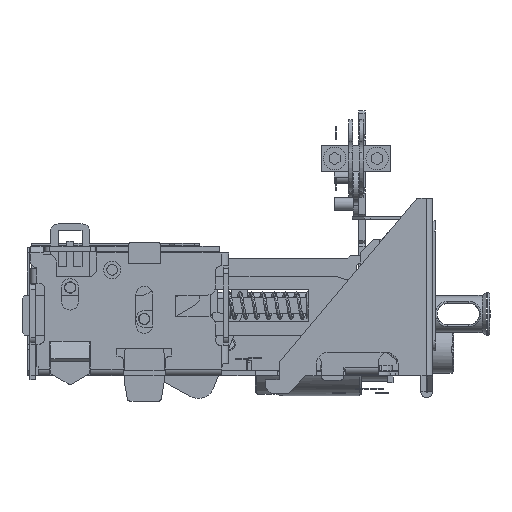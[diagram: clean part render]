
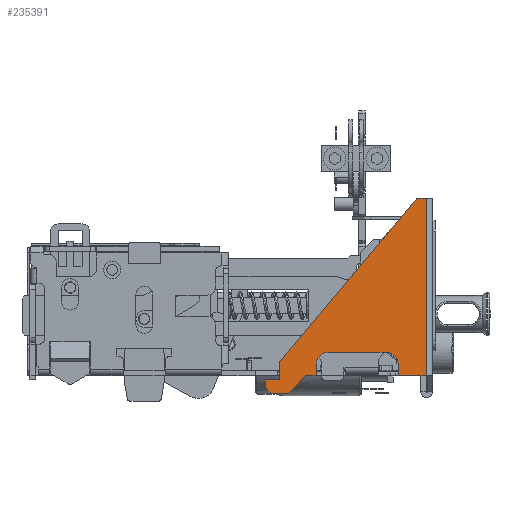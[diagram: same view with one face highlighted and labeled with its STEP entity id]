
A CAD part, left-side view. The second image highlights one B-rep face of the part: STEP entity #235391.
In plain terms, the highlighted planar face has unit normal (-1, 0, 0).
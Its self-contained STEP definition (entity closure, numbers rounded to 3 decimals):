
#233581=CARTESIAN_POINT(' ',(-26.25,33.5,-2.5));
#233582=VERTEX_POINT(' ',#233581);
#233596=CARTESIAN_POINT(' ',(-26.25,33.5,-2.5));
#233601=DIRECTION(' ',(0.,-1.,0.));
#233606=VECTOR(' ',#233601,1.);
#233611=LINE('',#233596,#233606);
#233616=CARTESIAN_POINT(' ',(-26.25,-33.5,-2.5));
#233617=VERTEX_POINT(' ',#233616);
#233621=EDGE_CURVE(' ',#233582,#233617,#233611,.T.);
#234786=CARTESIAN_POINT(' ',(-26.25,33.5,-6.));
#234787=VERTEX_POINT(' ',#234786);
#234801=CARTESIAN_POINT(' ',(-26.25,33.5,-2.5));
#234806=DIRECTION(' ',(0.,0.,-1.));
#234811=VECTOR(' ',#234806,1.);
#234816=LINE('',#234801,#234811);
#234821=EDGE_CURVE(' ',#233582,#234787,#234816,.T.);
#234851=DIRECTION(' ',(-1.,-0.,0.));
#234856=CARTESIAN_POINT(' ',(-26.25,-40.,-2.5));
#234861=DIRECTION(' ',(0.,1.,0.));
#234866=AXIS2_PLACEMENT_3D(' ',#234856,#234851,#234861);
#234871=PLANE('NONE',#234866);
#234876=CARTESIAN_POINT(' ',(-26.25,-33.5,-44.));
#234881=DIRECTION(' ',(0.,1.,0.));
#234886=VECTOR(' ',#234881,1.);
#234891=LINE('',#234876,#234886);
#234896=CARTESIAN_POINT(' ',(-26.25,-33.5,-44.));
#234897=VERTEX_POINT(' ',#234896);
#234901=CARTESIAN_POINT(' ',(-26.25,-29.5,-44.));
#234902=VERTEX_POINT(' ',#234901);
#234906=EDGE_CURVE(' ',#234897,#234902,#234891,.T.);
#234911=ORIENTED_EDGE(' ',*,*,#234906,.T.);
#234916=CARTESIAN_POINT(' ',(-26.25,-29.5,-39.));
#234921=DIRECTION(' ',(1.,0.,0.));
#234926=DIRECTION(' ',(0.,0.,-1.));
#234931=AXIS2_PLACEMENT_3D(' ',#234916,#234921,#234926);
#234936=CIRCLE('',#234931,5.);
#234941=CARTESIAN_POINT(' ',(-26.25,-24.5,-39.));
#234942=VERTEX_POINT(' ',#234941);
#234946=EDGE_CURVE(' ',#234902,#234942,#234936,.T.);
#234951=ORIENTED_EDGE(' ',*,*,#234946,.T.);
#234956=CARTESIAN_POINT(' ',(-26.25,-24.5,-39.));
#234961=DIRECTION(' ',(0.,0.,1.));
#234966=VECTOR(' ',#234961,1.);
#234971=LINE('',#234956,#234966);
#234976=CARTESIAN_POINT(' ',(-26.25,-24.5,-18.));
#234977=VERTEX_POINT(' ',#234976);
#234981=EDGE_CURVE(' ',#234942,#234977,#234971,.T.);
#234986=ORIENTED_EDGE(' ',*,*,#234981,.T.);
#234991=CARTESIAN_POINT(' ',(-26.25,-29.5,-18.));
#234996=DIRECTION(' ',(1.,0.,0.));
#235001=DIRECTION(' ',(0.,1.,0.));
#235006=AXIS2_PLACEMENT_3D(' ',#234991,#234996,#235001);
#235011=CIRCLE('',#235006,5.);
#235016=CARTESIAN_POINT(' ',(-26.25,-29.5,-13.));
#235017=VERTEX_POINT(' ',#235016);
#235021=EDGE_CURVE(' ',#234977,#235017,#235011,.T.);
#235026=ORIENTED_EDGE(' ',*,*,#235021,.T.);
#235031=CARTESIAN_POINT(' ',(-26.25,-29.5,-13.));
#235036=DIRECTION(' ',(0.,-1.,0.));
#235041=VECTOR(' ',#235036,1.);
#235046=LINE('',#235031,#235041);
#235051=CARTESIAN_POINT(' ',(-26.25,-33.5,-13.));
#235052=VERTEX_POINT(' ',#235051);
#235056=EDGE_CURVE(' ',#235017,#235052,#235046,.T.);
#235061=ORIENTED_EDGE(' ',*,*,#235056,.T.);
#235066=CARTESIAN_POINT(' ',(-26.25,-33.5,-13.));
#235071=DIRECTION(' ',(0.,0.,1.));
#235076=VECTOR(' ',#235071,1.);
#235081=LINE('',#235066,#235076);
#235086=EDGE_CURVE(' ',#235052,#233617,#235081,.T.);
#235091=ORIENTED_EDGE(' ',*,*,#235086,.T.);
#235096=ORIENTED_EDGE(' ',*,*,#233621,.F.);
#235101=ORIENTED_EDGE(' ',*,*,#234821,.T.);
#235106=CARTESIAN_POINT(' ',(-26.25,33.5,-6.));
#235111=DIRECTION(' ',(0.,-0.766,-0.643));
#235116=VECTOR(' ',#235111,1.);
#235121=LINE('',#235106,#235116);
#235126=CARTESIAN_POINT(' ',(-26.25,-28.5,-58.));
#235127=VERTEX_POINT(' ',#235126);
#235131=EDGE_CURVE(' ',#234787,#235127,#235121,.T.);
#235136=ORIENTED_EDGE(' ',*,*,#235131,.T.);
#235141=CARTESIAN_POINT(' ',(-26.25,-28.5,-58.));
#235146=DIRECTION(' ',(0.,-1.,0.));
#235151=VECTOR(' ',#235146,1.);
#235156=LINE('',#235141,#235151);
#235161=CARTESIAN_POINT(' ',(-26.25,-35.,-58.));
#235162=VERTEX_POINT(' ',#235161);
#235166=EDGE_CURVE(' ',#235127,#235162,#235156,.T.);
#235171=ORIENTED_EDGE(' ',*,*,#235166,.T.);
#235176=CARTESIAN_POINT(' ',(-26.25,-35.,-63.));
#235181=DIRECTION(' ',(0.,0.,1.));
#235186=VECTOR(' ',#235181,1.);
#235191=LINE('',#235176,#235186);
#235196=CARTESIAN_POINT(' ',(-26.25,-35.,-63.));
#235197=VERTEX_POINT(' ',#235196);
#235201=EDGE_CURVE(' ',#235197,#235162,#235191,.T.);
#235206=ORIENTED_EDGE(' ',*,*,#235201,.F.);
#235211=CARTESIAN_POINT(' ',(-26.25,-38.,-63.));
#235216=DIRECTION(' ',(0.,1.,0.));
#235221=VECTOR(' ',#235216,1.);
#235226=LINE('',#235211,#235221);
#235231=CARTESIAN_POINT(' ',(-26.25,-38.,-63.));
#235232=VERTEX_POINT(' ',#235231);
#235236=EDGE_CURVE(' ',#235232,#235197,#235226,.T.);
#235241=ORIENTED_EDGE(' ',*,*,#235236,.F.);
#235246=CARTESIAN_POINT(' ',(-26.25,-38.,-63.));
#235251=DIRECTION(' ',(0.,-0.707,0.707));
#235256=VECTOR(' ',#235251,1.);
#235261=LINE('',#235246,#235256);
#235266=CARTESIAN_POINT(' ',(-26.25,-40.,-61.));
#235267=VERTEX_POINT(' ',#235266);
#235271=EDGE_CURVE(' ',#235232,#235267,#235261,.T.);
#235276=ORIENTED_EDGE(' ',*,*,#235271,.T.);
#235281=CARTESIAN_POINT(' ',(-26.25,-40.,-54.5));
#235286=DIRECTION(' ',(0.,0.,-1.));
#235291=VECTOR(' ',#235286,1.);
#235296=LINE('',#235281,#235291);
#235301=CARTESIAN_POINT(' ',(-26.25,-40.,-54.5));
#235302=VERTEX_POINT(' ',#235301);
#235306=EDGE_CURVE(' ',#235302,#235267,#235296,.T.);
#235311=ORIENTED_EDGE(' ',*,*,#235306,.F.);
#235316=CARTESIAN_POINT(' ',(-26.25,-40.,-54.5));
#235321=DIRECTION(' ',(0.,0.707,0.707));
#235326=VECTOR(' ',#235321,1.);
#235331=LINE('',#235316,#235326);
#235336=CARTESIAN_POINT(' ',(-26.25,-33.5,-48.));
#235337=VERTEX_POINT(' ',#235336);
#235341=EDGE_CURVE(' ',#235302,#235337,#235331,.T.);
#235346=ORIENTED_EDGE(' ',*,*,#235341,.T.);
#235351=CARTESIAN_POINT(' ',(-26.25,-33.5,-48.));
#235356=DIRECTION(' ',(0.,0.,1.));
#235361=VECTOR(' ',#235356,1.);
#235366=LINE('',#235351,#235361);
#235371=EDGE_CURVE(' ',#235337,#234897,#235366,.T.);
#235376=ORIENTED_EDGE(' ',*,*,#235371,.T.);
#235381=EDGE_LOOP(' ',(#234911,#234951,#234986,#235026,#235061,#235091,#235096,#235101,#235136,#235171,#235206,#235241,#235276,#235311,#235346,#235376));
#235386=FACE_OUTER_BOUND(' ',#235381,.T.);
#235391=ADVANCED_FACE('NONE',(#235386),#234871,.T.);
